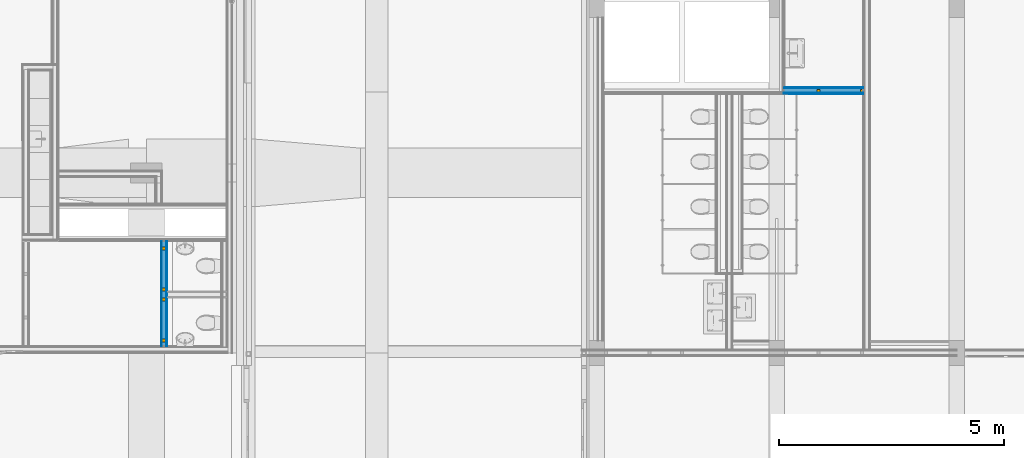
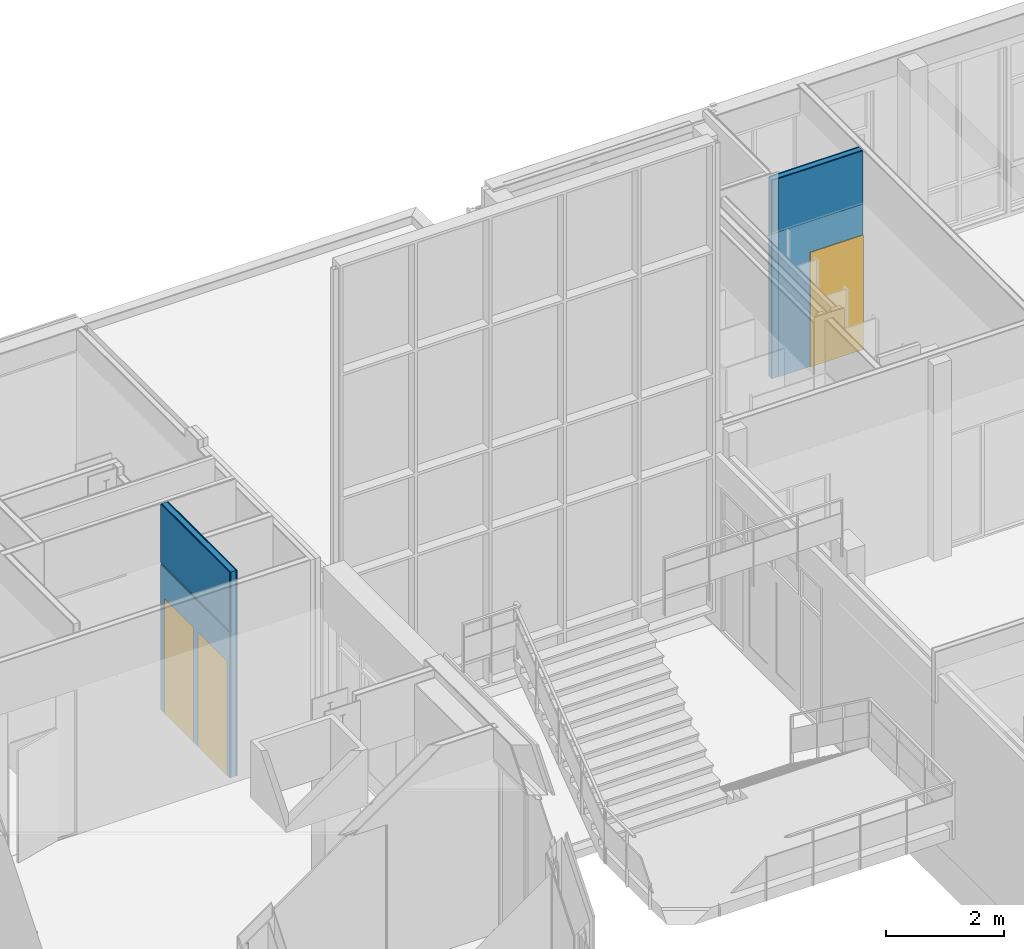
# One storey, part 64 of 94: 10 building element parts, 3 doors, 3 openings, 2 elements without a shape of their own.
"""IFC2X3 building model written with IfcOpenShell, lengths in millimetres."""

from ifc_helpers import new_model, entity, si_unit, converted_unit, derived_unit, money_unit, direction, frame, origin_with_axes, place, context, subcontext, project, spatial, faceted_brep, source, transform, mapped, material, type_object, type_shapes, element, fill, aggregate, save


model = new_model("IFC2X3")

# Units and contexts
model_context = context("Model", 3, precision=0.01, world=origin_with_axes(), true_north=direction((0.0, 1.0)))
body_context = subcontext(model_context, "Body", "Model", "MODEL_VIEW")
ifc_project = project(units=[si_unit("LENGTHUNIT", "METRE", prefix="MILLI"), si_unit("AREAUNIT", "SQUARE_METRE"), si_unit("VOLUMEUNIT", "CUBIC_METRE"), converted_unit("PLANEANGLEUNIT", "DEGREE", entity("IfcPlaneAngleMeasure", 0.0174532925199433), si_unit("PLANEANGLEUNIT", "RADIAN"), dimensions=[0, 0, 0, 0, 0, 0, 0]), money_unit("EUR"), converted_unit("TIMEUNIT", "Year", entity("IfcTimeMeasure", 31557600.0), si_unit("TIMEUNIT", "SECOND"), dimensions=[0, 0, 1, 0, 0, 0, 0]), si_unit("MASSUNIT", "GRAM", prefix="KILO"), si_unit("THERMODYNAMICTEMPERATUREUNIT", "DEGREE_CELSIUS"), si_unit("LUMINOUSINTENSITYUNIT", "LUMEN"), si_unit("ENERGYUNIT", "JOULE", prefix="MEGA"), derived_unit("THERMALCONDUCTANCEUNIT", [(si_unit("POWERUNIT", "WATT"), 1), (si_unit("LENGTHUNIT", "METRE"), -1), (si_unit("THERMODYNAMICTEMPERATUREUNIT", "KELVIN"), -1)]), derived_unit("SPECIFICHEATCAPACITYUNIT", [(si_unit("ENERGYUNIT", "JOULE"), 1), (si_unit("MASSUNIT", "GRAM", prefix="KILO"), -1), (si_unit("THERMODYNAMICTEMPERATUREUNIT", "KELVIN"), -1)]), derived_unit("MASSDENSITYUNIT", [(si_unit("MASSUNIT", "GRAM", prefix="KILO"), 1), (si_unit("VOLUMEUNIT", "CUBIC_METRE"), -1)])], contexts=[model_context])

# Site, building, storey
site_placement = place(None, origin_with_axes())
site = spatial("IfcSite", under=ifc_project, at=site_placement, Name="<site naam>", CompositionType="ELEMENT")
building_placement = place(site_placement, origin_with_axes())
building = spatial("IfcBuilding", under=site, at=building_placement, Name="<Naam gebouw>", CompositionType="ELEMENT")
storey_placement = place(building_placement, frame((0.0, 0.0, 4250.0), z_axis=(0.0, 0.0, 1.0), x_axis=(1.0, 0.0, 0.0)))
storey = spatial("IfcBuildingStorey", under=building, at=storey_placement, Name="01 1e verdieping", CompositionType="ELEMENT", Elevation=4250.0)

# Door
door_style_1 = type_object("IfcDoorStyle", Name="D1 27", ConstructionType="NOTDEFINED", OperationType="SINGLE_SWING_RIGHT", ParameterTakesPrecedence=False, Sizeable=False)
shared_shape_1 = source(origin_with_axes(), body_context, "Body", "Brep", [
    faceted_brep([(-425.0, -40.0, 0.0), (-425.0, -39.99999999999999, 2300.0), (-425.0, -114.0, 2300.0), (-425.0, -114.0, 0.0), (-442.0, -40.0, 2300.0), (-442.0, -40.0, 0.0), (-442.0, 0.0, 2300.0), (-492.0, 0.0, 2300.0), (-492.0, -114.0, 2300.0), (-492.0, -114.0, 0.0), (-492.0, 0.0, 0.0), (-442.0, 0.0, 0.0)], [[[0, 1, 2, 3]], [[4, 1, 0, 5]], [[4, 6, 7, 8, 2, 1]], [[3, 2, 8, 9]], [[5, 0, 3, 9, 10, 11]], [[6, 4, 5, 11]], [[6, 11, 10, 7]], [[10, 9, 8, 7]]]),
    faceted_brep([(442.0, -40.0, 2300.0), (425.0, -39.99999999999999, 2300.0), (425.0, -114.0, 2300.0), (492.0, -114.0, 2300.0), (492.0, 0.0, 2300.0), (442.0, 0.0, 2300.0), (442.0, -40.0, 0.0), (425.0, -40.0, 0.0), (425.0, -114.0, 0.0), (492.0, -114.0, 0.0), (492.0, 0.0, 0.0), (442.0, 0.0, 0.0)], [[[0, 1, 2, 3, 4, 5]], [[1, 0, 6, 7]], [[1, 7, 8, 2]], [[3, 2, 8, 9]], [[4, 3, 9, 10]], [[11, 5, 4, 10]], [[0, 5, 11, 6]], [[6, 11, 10, 9, 8, 7]]]),
    faceted_brep([(-442.0, 0.0, 2317.0), (-442.0, 0.0, 2300.0), (-492.0, 0.0, 2300.0), (-492.0, 0.0, 2367.0), (492.0, 0.0, 2367.0), (492.0, 0.0, 2300.0), (442.0, 0.0, 2300.0), (442.0, 0.0, 2317.0), (-442.0, -40.0, 2317.0), (-442.0, -40.0, 2300.0), (-425.0, -39.99999999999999, 2300.0), (-425.0, -114.0, 2300.0), (-492.0, -114.0, 2300.0), (-492.0, -114.0, 2367.0), (492.0, -114.0, 2367.0), (492.0, -114.0, 2300.0), (442.0, -40.0, 2300.0), (425.0, -114.0, 2300.0), (425.0, -39.99999999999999, 2300.0), (442.0, -40.0, 2317.0)], [[[0, 1, 2, 3, 4, 5, 6, 7]], [[1, 0, 8, 9]], [[9, 10, 11, 12, 2, 1]], [[2, 12, 13, 3]], [[3, 13, 14, 4]], [[4, 14, 15, 5]], [[16, 6, 5, 15, 17, 18]], [[7, 6, 16, 19]], [[0, 7, 19, 8]], [[16, 18, 10, 9, 8, 19]], [[10, 18, 17, 11]], [[17, 15, 14, 13, 12, 11]]]),
    faceted_brep([(442.0000000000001, 0.0, 0.0), (442.0000000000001, -40.0, 0.0), (-442.0, -40.0, 0.0), (-442.0, 0.0, 0.0), (442.0000000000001, 0.0, 2317.0), (442.0000000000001, -40.00000000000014, 2317.0), (-442.0, -40.00000000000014, 2317.0), (-442.0, 0.0, 2317.0)], [[[0, 1, 2, 3]], [[4, 5, 1, 0]], [[1, 5, 6, 2]], [[3, 2, 6, 7]], [[0, 3, 7, 4]], [[7, 6, 5, 4]]]),
])
type_shapes(door_style_1, [shared_shape_1])
wall_2_placement = place(storey_placement, frame((2465.044484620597, 14599.99996934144, 0.0), z_axis=(0.0, 0.0, 1.0), x_axis=(0.0, -1.0, 0.0)))
opening_3_placement = place(wall_2_placement, frame((733.0000000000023, 0.0, 0.0), z_axis=(0.0, 0.0, 1.0), x_axis=(1.0, 0.0, 0.0)))
door_1_placement = place(opening_3_placement, frame((425.0000000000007, 0.0, 0.0), z_axis=(0.0, 0.0, 1.0), x_axis=(-1.0, 0.0, 0.0)))
door_1 = element("IfcDoor", 1, at=door_1_placement, inside=storey, type_object=door_style_1, Name="22_BI-A-04 sp_305", ObjectType="DOOR", OverallHeight=2367.0, OverallWidth=984.0, context=body_context, shape_type="MappedRepresentation", body=[
    mapped(shared_shape_1, transform((425.0000000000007, 149.9999999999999, 0.0))),
])

door_style_2 = type_object("IfcDoorStyle", Name="D1 27", ConstructionType="NOTDEFINED", OperationType="SINGLE_SWING_LEFT", ParameterTakesPrecedence=False, Sizeable=False)
shared_shape_2 = source(origin_with_axes(), body_context, "Body", "Brep", [
    faceted_brep([(425.0, -40.0, 0.0), (425.0, -114.0, 0.0), (425.0, -114.0, 2300.0), (425.0, -39.99999999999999, 2300.0), (442.0, -40.0, 0.0), (442.0, 0.0, 0.0), (492.0, 0.0, 0.0), (492.0, -114.0, 0.0), (492.0, -114.0, 2300.0), (442.0, -40.0, 2300.0), (492.0, 0.0, 2300.0), (442.0, 0.0, 2300.0)], [[[0, 1, 2, 3]], [[4, 5, 6, 7, 1, 0]], [[1, 7, 8, 2]], [[9, 3, 2, 8, 10, 11]], [[9, 4, 0, 3]], [[11, 5, 4, 9]], [[11, 10, 6, 5]], [[6, 10, 8, 7]]]),
    faceted_brep([(-442.0, -40.0, 2300.0), (-442.0, 0.0, 2300.0), (-492.0, 0.0, 2300.0), (-492.0, -114.0, 2300.0), (-425.0, -114.0, 2300.0), (-425.0, -39.99999999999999, 2300.0), (-442.0, -40.0, 0.0), (-442.0, 0.0, 0.0), (-492.0, 0.0, 0.0), (-492.0, -114.0, 0.0), (-425.0, -114.0, 0.0), (-425.0, -40.0, 0.0)], [[[0, 1, 2, 3, 4, 5]], [[0, 6, 7, 1]], [[7, 8, 2, 1]], [[2, 8, 9, 3]], [[3, 9, 10, 4]], [[5, 4, 10, 11]], [[5, 11, 6, 0]], [[6, 11, 10, 9, 8, 7]]]),
    faceted_brep([(442.0, 0.0, 2317.0), (-442.0, 0.0, 2317.0), (-442.0, 0.0, 2300.0), (-492.0, 0.0, 2300.0), (-492.0, 0.0, 2367.0), (492.0, 0.0, 2367.0), (492.0, 0.0, 2300.0), (442.0, 0.0, 2300.0), (442.0, -40.0, 2317.0), (-442.0, -40.0, 2317.0), (-442.0, -40.0, 2300.0), (-425.0, -39.99999999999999, 2300.0), (-425.0, -114.0, 2300.0), (-492.0, -114.0, 2300.0), (-492.0, -114.0, 2367.0), (492.0, -114.0, 2367.0), (492.0, -114.0, 2300.0), (442.0, -40.0, 2300.0), (425.0, -114.0, 2300.0), (425.0, -39.99999999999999, 2300.0)], [[[0, 1, 2, 3, 4, 5, 6, 7]], [[0, 8, 9, 1]], [[1, 9, 10, 2]], [[10, 11, 12, 13, 3, 2]], [[4, 3, 13, 14]], [[5, 4, 14, 15]], [[6, 5, 15, 16]], [[17, 7, 6, 16, 18, 19]], [[7, 17, 8, 0]], [[10, 9, 8, 17, 19, 11]], [[19, 18, 12, 11]], [[12, 18, 16, 15, 14, 13]]]),
    faceted_brep([(-442.0000000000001, 0.0, 0.0), (442.0, 0.0, 0.0), (442.0, -40.0, 0.0), (-442.0000000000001, -40.0, 0.0), (-442.0000000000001, 0.0, 2317.0), (442.0, 0.0, 2317.0), (442.0, -40.00000000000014, 2317.0), (-442.0000000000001, -40.00000000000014, 2317.0)], [[[0, 1, 2, 3]], [[0, 4, 5, 1]], [[1, 5, 6, 2]], [[3, 2, 6, 7]], [[4, 0, 3, 7]], [[5, 4, 7, 6]]]),
])
type_shapes(door_style_2, [shared_shape_2])
opening_2_placement = place(wall_2_placement, frame((1867.000000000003, 0.0, 0.0), z_axis=(0.0, 0.0, 1.0), x_axis=(1.0, 0.0, 0.0)))
door_2_placement = place(opening_2_placement, frame((425.0000000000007, 0.0, 0.0), z_axis=(0.0, 0.0, 1.0), x_axis=(-1.0, 0.0, 0.0)))
door_2 = element("IfcDoor", 2, at=door_2_placement, inside=storey, type_object=door_style_2, Name="22_BI-A-03_305", ObjectType="DOOR", OverallHeight=2367.0, OverallWidth=984.0, context=body_context, shape_type="MappedRepresentation", body=[
    mapped(shared_shape_2, transform((425.0000000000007, 149.9999999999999, 0.0))),
])

door_style_3 = type_object("IfcDoorStyle", Name="D1 27", ConstructionType="NOTDEFINED", OperationType="SINGLE_SWING_LEFT", ParameterTakesPrecedence=False, Sizeable=False)
shared_shape_3 = source(origin_with_axes(), body_context, "Body", "Brep", [
    faceted_brep([(449.9999999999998, -40.0, 0.0), (450.0, -114.0, 0.0), (450.0, -114.0, 2300.0), (450.0, -39.99999999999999, 2300.0), (467.0, -40.0, 0.0), (467.0, 0.0, 0.0), (517.0, 0.0, 0.0), (517.0, -114.0, 0.0), (517.0, -114.0, 2300.0), (467.0, -40.0, 2300.0), (517.0, 0.0, 2300.0), (467.0, 0.0, 2300.0)], [[[0, 1, 2, 3]], [[4, 5, 6, 7, 1, 0]], [[1, 7, 8, 2]], [[9, 3, 2, 8, 10, 11]], [[9, 4, 0, 3]], [[11, 5, 4, 9]], [[11, 10, 6, 5]], [[6, 10, 8, 7]]]),
    faceted_brep([(-467.0, -40.0, 2300.0), (-467.0, 0.0, 2300.0), (-517.0, 0.0, 2300.0), (-517.0, -114.0, 2300.0), (-450.0, -114.0, 2300.0), (-450.0, -39.99999999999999, 2300.0), (-467.0, -40.0, 0.0), (-467.0, 0.0, 0.0), (-517.0, 0.0, 0.0), (-517.0, -114.0, 0.0), (-450.0, -114.0, 0.0), (-450.0, -40.0, 0.0)], [[[0, 1, 2, 3, 4, 5]], [[0, 6, 7, 1]], [[7, 8, 2, 1]], [[2, 8, 9, 3]], [[3, 9, 10, 4]], [[5, 4, 10, 11]], [[5, 11, 6, 0]], [[6, 11, 10, 9, 8, 7]]]),
    faceted_brep([(467.0, 0.0, 2317.0), (-467.0, 0.0, 2317.0), (-467.0, 0.0, 2300.0), (-517.0, 0.0, 2300.0), (-517.0, 0.0, 2367.0), (517.0, 0.0, 2367.0), (517.0, 0.0, 2300.0), (467.0, 0.0, 2300.0), (467.0, -40.0, 2317.0), (-467.0, -40.0, 2317.0), (-467.0, -40.0, 2300.0), (-450.0, -39.99999999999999, 2300.0), (-450.0, -114.0, 2300.0), (-517.0, -114.0, 2300.0), (-517.0, -114.0, 2367.0), (517.0, -114.0, 2367.0), (517.0, -114.0, 2300.0), (467.0, -40.0, 2300.0), (450.0, -114.0, 2300.0), (450.0, -39.99999999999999, 2300.0)], [[[0, 1, 2, 3, 4, 5, 6, 7]], [[0, 8, 9, 1]], [[1, 9, 10, 2]], [[10, 11, 12, 13, 3, 2]], [[4, 3, 13, 14]], [[5, 4, 14, 15]], [[6, 5, 15, 16]], [[17, 7, 6, 16, 18, 19]], [[7, 17, 8, 0]], [[10, 9, 8, 17, 19, 11]], [[19, 18, 12, 11]], [[12, 18, 16, 15, 14, 13]]]),
    faceted_brep([(-467.0000000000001, 0.0, 0.0), (467.0, 0.0, 0.0), (467.0, -40.0, 0.0), (-467.0000000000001, -40.0, 0.0), (-467.0000000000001, 0.0, 2317.0), (467.0, 0.0, 2317.0), (467.0, -40.00000000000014, 2317.0), (-467.0000000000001, -40.00000000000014, 2317.0)], [[[0, 1, 2, 3]], [[0, 4, 5, 1]], [[1, 5, 6, 2]], [[3, 2, 6, 7]], [[4, 0, 3, 7]], [[5, 4, 7, 6]]]),
])
type_shapes(door_style_3, [shared_shape_3])
wall_1_placement = place(storey_placement, frame((17999.93840291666, 17750.00000000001, 0.0), z_axis=(0.0, 0.0, 1.0), x_axis=(-1.0, 0.0, 0.0)))
opening_1_placement = place(wall_1_placement, frame((591.9999999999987, 0.0, 0.0), z_axis=(0.0, 0.0, 1.0), x_axis=(1.0, 0.0, 0.0)))
door_3_placement = place(opening_1_placement, frame((-449.9999999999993, 0.0, 0.0), z_axis=(0.0, 0.0, 1.0), x_axis=(1.0, 0.0, 0.0)))
door_3 = element("IfcDoor", 3, at=door_3_placement, inside=storey, type_object=door_style_3, Name="22_BI-A-04_305", ObjectType="DOOR", OverallHeight=2367.0, OverallWidth=1034.0, context=body_context, shape_type="MappedRepresentation", body=[
    mapped(shared_shape_3, transform((449.9999999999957, 10.00000000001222, 0.0))),
])

# Wall, opening
wall_type = type_object("IfcWallType", Name="MS-01 GF 150 ECO DGS/2.100.2.A 150", PredefinedType="NOTDEFINED")
wall_1 = element("IfcWall", 4, at=wall_1_placement, inside=storey, type_object=wall_type, Name="22_Binnenwand_MS-01")
opening_1 = element("IfcOpeningElement", 5, at=opening_1_placement, cuts=wall_1, Name="22_BI-A-04_305", context=body_context, shape_type="Brep", body=[
    faceted_brep([(-517.000000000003, -151.0000000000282, 2367.0), (-517.000000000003, -151.0000000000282, 0.0), (516.9999999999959, -151.0000000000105, 0.0), (516.9999999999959, -151.0000000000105, 2367.0), (-517.000000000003, 1.000000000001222, 2367.0), (-517.000000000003, 1.000000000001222, 0.0), (516.9999999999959, 1.000000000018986, 0.0), (516.9999999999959, 1.000000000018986, 2367.0)], [[[0, 1, 2, 3]], [[4, 5, 1, 0]], [[5, 6, 2, 1]], [[6, 7, 3, 2]], [[7, 4, 0, 3]], [[6, 5, 4, 7]]]),
])

fill(opening_1, door_3)

# Building element part
ifc_material_1 = material(Name="gipsplaat")
building_element_part_1_placement = place(wall_1_placement, origin_with_axes())
building_element_part_1 = element("IfcBuildingElementPart", 6, at=building_element_part_1_placement, material=ifc_material_1, Name="gipsplaat", context=body_context, shape_type="Brep", body=[
    faceted_brep([(1724.938402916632, -12.49999999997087, 4100.0), (75.00000240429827, -12.49999999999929, 4100.0), (75.00006807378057, -12.49999999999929, 3.000000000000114), (1724.938402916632, -12.49999999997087, 3.000000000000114), (75.00000240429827, 0.0, 4100.0), (1724.938402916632, 0.0, 4100.0), (75.00006807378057, 0.0, 3.000000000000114), (1724.938402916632, 0.0, 3.000000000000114), (1724.938402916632, 0.0, 3000.0), (1724.938402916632, -5.398737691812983, 3000.0), (1724.938402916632, -5.398737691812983, 3040.0), (1724.938402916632, 0.0, 3040.0), (76.26131857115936, 0.0, 3040.0), (76.26131857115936, 0.0, 3000.0), (76.26131857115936, -5.398737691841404, 3000.0), (76.26131857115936, -5.398737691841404, 3040.0)], [[[0, 1, 2, 3]], [[4, 1, 0, 5]], [[1, 4, 6, 2]], [[7, 3, 2, 6]], [[5, 0, 3, 7, 8, 9, 10, 11]], [[4, 5, 11, 12, 13, 8, 7, 6]], [[9, 8, 13, 14]], [[15, 10, 9, 14]], [[15, 12, 11, 10]], [[14, 13, 12, 15]]]),
])

building_element_part_2_placement = place(wall_1_placement, origin_with_axes())
building_element_part_2 = element("IfcBuildingElementPart", 7, at=building_element_part_2_placement, material=ifc_material_1, Name="gipsplaat", context=body_context, shape_type="Brep", body=[
    faceted_brep([(1849.938402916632, -24.99999999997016, 4100.0), (75.00000240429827, -24.99999999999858, 4100.0), (75.00006807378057, -24.99999999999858, 3.000000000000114), (1824.938467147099, -24.99999999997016, 3.000000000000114), (1824.938467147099, -24.99999999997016, 0.0), (1849.938402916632, -24.99999999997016, 0.0), (75.00000240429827, -12.49999999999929, 4100.0), (1849.938402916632, -12.49999999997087, 4100.0), (75.00006807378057, -12.49999999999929, 3.000000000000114), (1824.938467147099, -12.49999999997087, 3.000000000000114), (1824.938467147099, -12.49999999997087, 0.0), (1849.938402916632, -12.49999999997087, 0.0)], [[[0, 1, 2, 3, 4, 5]], [[6, 1, 0, 7]], [[1, 6, 8, 2]], [[9, 3, 2, 8]], [[10, 4, 3, 9]], [[5, 4, 10, 11]], [[7, 0, 5, 11]], [[6, 7, 11, 10, 9, 8]]]),
])

building_element_part_3_placement = place(wall_1_placement, origin_with_axes())
building_element_part_3 = element("IfcBuildingElementPart", 8, at=building_element_part_3_placement, material=ifc_material_1, Name="gipsplaat", context=body_context, shape_type="Brep", body=[
    faceted_brep([(1837.438402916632, -137.4999999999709, 4100.0), (75.00000240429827, -137.4999999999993, 4100.0), (75.00006807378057, -137.4999999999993, 3.000000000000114), (1824.938467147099, -137.4999999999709, 3.000000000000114), (1824.938467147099, -137.4999999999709, 0.0), (1837.438402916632, -137.4999999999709, 0.0), (75.00000240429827, -125.0, 4100.0), (1837.438402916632, -124.9999999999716, 4100.0), (75.00006807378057, -125.0, 3.000000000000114), (1824.938467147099, -124.9999999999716, 3.000000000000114), (1824.938467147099, -124.9999999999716, 0.0), (1837.438402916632, -124.9999999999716, 0.0)], [[[0, 1, 2, 3, 4, 5]], [[6, 1, 0, 7]], [[1, 6, 8, 2]], [[9, 3, 2, 8]], [[10, 4, 3, 9]], [[5, 4, 10, 11]], [[7, 0, 5, 11]], [[6, 7, 11, 10, 9, 8]]]),
])

ifc_material_2 = material(Name="isolatie_steenwol LSW")
building_element_part_4_placement = place(wall_1_placement, origin_with_axes())
building_element_part_4 = element("IfcBuildingElementPart", 9, at=building_element_part_4_placement, material=ifc_material_2, Name="isolatie_steenwol LSW", context=body_context, shape_type="Brep", body=[
    faceted_brep([(1849.938402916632, -124.9999999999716, 4100.0), (75.00000240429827, -125.0, 4100.0), (75.00006807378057, -125.0, 3.000000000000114), (1824.938467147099, -124.9999999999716, 3.000000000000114), (1824.938467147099, -124.9999999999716, 0.0), (1849.938402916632, -124.9999999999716, 0.0), (75.00000240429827, -24.99999999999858, 4100.0), (1849.938402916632, -24.99999999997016, 4100.0), (75.00006807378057, -24.99999999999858, 3.000000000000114), (1824.938467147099, -24.99999999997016, 3.000000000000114), (1824.938467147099, -24.99999999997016, 0.0), (1849.938402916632, -24.99999999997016, 0.0)], [[[0, 1, 2, 3, 4, 5]], [[6, 1, 0, 7]], [[1, 6, 8, 2]], [[9, 3, 2, 8]], [[10, 4, 3, 9]], [[5, 4, 10, 11]], [[7, 0, 5, 11]], [[6, 7, 11, 10, 9, 8]]]),
])

building_element_part_5_placement = place(wall_1_placement, origin_with_axes())
building_element_part_5 = element("IfcBuildingElementPart", 10, at=building_element_part_5_placement, material=ifc_material_1, Name="gipsplaat", context=body_context, shape_type="Brep", body=[
    faceted_brep([(1824.938404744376, -149.9999999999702, 4100.0), (75.00000240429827, -149.9999999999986, 4100.0), (75.00006807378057, -149.9999999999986, 3.000000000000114), (1824.938467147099, -149.9999999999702, 3.000000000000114), (75.00000240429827, -137.4999999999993, 4100.0), (1824.938404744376, -137.4999999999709, 4100.0), (75.00006807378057, -137.4999999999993, 3.000000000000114), (1824.938467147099, -137.4999999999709, 3.000000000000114)], [[[0, 1, 2, 3]], [[4, 1, 0, 5]], [[1, 4, 6, 2]], [[7, 3, 2, 6]], [[5, 0, 3, 7]], [[4, 5, 7, 6]]]),
])

aggregate(wall_1, [building_element_part_1, building_element_part_2, building_element_part_3, building_element_part_4, building_element_part_5])

# Wall, opening
wall_2 = element("IfcWall", 11, at=wall_2_placement, inside=storey, type_object=wall_type, Name="22_Binnenwand_MS-01")
opening_2 = element("IfcOpeningElement", 12, at=opening_2_placement, cuts=wall_2, Name="22_BI-A-03_305", context=body_context, shape_type="Brep", body=[
    faceted_brep([(492.0000000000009, 1.000000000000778, 2367.0), (492.0000000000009, 1.000000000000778, 0.0), (-491.9999999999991, 1.000000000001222, 0.0), (-491.9999999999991, 1.000000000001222, 2367.0), (492.0000000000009, -151.0000000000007, 2367.0), (492.0000000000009, -151.0000000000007, 0.0), (-491.9999999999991, -151.0000000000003, 0.0), (-491.9999999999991, -151.0000000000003, 2367.0)], [[[0, 1, 2, 3]], [[4, 5, 1, 0]], [[5, 6, 2, 1]], [[6, 7, 3, 2]], [[7, 4, 0, 3]], [[6, 5, 4, 7]]]),
])

fill(opening_2, door_2)

# Opening
opening_3 = element("IfcOpeningElement", 13, at=opening_3_placement, cuts=wall_2, Name="22_BI-A-04 sp_305", context=body_context, shape_type="Brep", body=[
    faceted_brep([(492.0000000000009, 1.000000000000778, 2367.0), (492.0000000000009, 1.000000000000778, 0.0), (-491.9999999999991, 1.000000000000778, 0.0), (-491.9999999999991, 1.000000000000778, 2367.0), (492.0000000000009, -151.0000000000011, 2367.0), (492.0000000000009, -151.0000000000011, 0.0), (-491.9999999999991, -151.0000000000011, 0.0), (-491.9999999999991, -151.0000000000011, 2367.0)], [[[0, 1, 2, 3]], [[4, 5, 1, 0]], [[5, 6, 2, 1]], [[6, 7, 3, 2]], [[7, 4, 0, 3]], [[6, 5, 4, 7]]]),
])

fill(opening_3, door_1)

# Building element part
building_element_part_6_placement = place(wall_2_placement, origin_with_axes())
building_element_part_6 = element("IfcBuildingElementPart", 14, at=building_element_part_6_placement, material=ifc_material_1, Name="gipsplaat", context=body_context, shape_type="Brep", body=[
    faceted_brep([(112.5000000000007, -12.50000000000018, 19.99999999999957), (112.5000000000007, 0.0, 19.99999999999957), (112.5000000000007, 0.0, 0.0), (112.5000000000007, -12.50000000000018, 0.0), (2450.000036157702, 0.0, 19.99999999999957), (2450.000036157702, -12.49999999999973, 19.99999999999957), (2449.999969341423, 0.0, 0.0), (2449.999969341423, -12.49999999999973, 0.0)], [[[0, 1, 2, 3]], [[4, 1, 0, 5]], [[1, 4, 6, 2]], [[6, 7, 3, 2]], [[5, 0, 3, 7]], [[4, 5, 7, 6]]]),
    faceted_brep([(2450.000036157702, 0.0, 22.99999999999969), (112.5000000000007, 0.0, 22.99999999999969), (112.5000000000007, 0.0, 4250.0), (2449.999969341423, 0.0, 4250.0), (112.5000000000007, -12.50000000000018, 22.99999999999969), (2450.000036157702, -12.49999999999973, 22.99999999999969), (112.5000000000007, -12.49999999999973, 4250.0), (2449.999969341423, -12.49999999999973, 4250.0)], [[[0, 1, 2, 3]], [[4, 1, 0, 5]], [[1, 4, 6, 2]], [[7, 3, 2, 6]], [[5, 0, 3, 7]], [[4, 5, 7, 6]]]),
])

building_element_part_7_placement = place(wall_2_placement, origin_with_axes())
building_element_part_7 = element("IfcBuildingElementPart", 15, at=building_element_part_7_placement, material=ifc_material_1, Name="gipsplaat", context=body_context, shape_type="Brep", body=[
    faceted_brep([(112.5000000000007, -24.99999999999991, 19.99999999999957), (112.5000000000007, -12.50000000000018, 19.99999999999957), (112.5000000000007, -12.50000000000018, 0.0), (112.5000000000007, -24.99999999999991, 0.0), (2450.000036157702, -12.49999999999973, 19.99999999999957), (2450.000036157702, -24.99999999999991, 19.99999999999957), (2449.999969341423, -12.49999999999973, 0.0), (2449.999969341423, -24.99999999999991, 0.0)], [[[0, 1, 2, 3]], [[4, 1, 0, 5]], [[1, 4, 6, 2]], [[6, 7, 3, 2]], [[5, 0, 3, 7]], [[4, 5, 7, 6]]]),
    faceted_brep([(2450.000036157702, -12.49999999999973, 22.99999999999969), (112.5000000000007, -12.50000000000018, 22.99999999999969), (112.5000000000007, -12.49999999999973, 4250.0), (2449.999969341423, -12.49999999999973, 4250.0), (112.5000000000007, -24.99999999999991, 22.99999999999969), (2450.000036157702, -24.99999999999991, 22.99999999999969), (112.5000000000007, -24.99999999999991, 4250.0), (2449.999969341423, -24.99999999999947, 4250.0)], [[[0, 1, 2, 3]], [[4, 1, 0, 5]], [[1, 4, 6, 2]], [[7, 3, 2, 6]], [[5, 0, 3, 7]], [[4, 5, 7, 6]]]),
])

building_element_part_8_placement = place(wall_2_placement, origin_with_axes())
building_element_part_8 = element("IfcBuildingElementPart", 16, at=building_element_part_8_placement, material=ifc_material_2, Name="isolatie_steenwol LSW", context=body_context, shape_type="Brep", body=[
    faceted_brep([(2450.000036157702, -24.99999999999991, 22.99999999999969), (112.5000000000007, -24.99999999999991, 22.99999999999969), (112.5000000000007, -24.99999999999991, 4250.0), (2449.999969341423, -24.99999999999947, 4250.0), (112.5000000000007, -29.9999999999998, 22.99999999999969), (2450.000036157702, -29.99999999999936, 22.99999999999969), (112.5000000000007, -29.9999999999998, 19.99999999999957), (112.5000000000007, -24.99999999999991, 19.99999999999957), (112.5000000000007, -24.99999999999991, 0.0), (112.5000000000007, -29.9999999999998, 0.0), (112.5000000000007, -29.9999999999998, 3.000000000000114), (112.5000000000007, -125.0, 3.000000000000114), (112.5000000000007, -124.9999999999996, 4250.0), (2449.999969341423, -124.9999999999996, 4250.0), (2449.999969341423, -125.0, 3.000000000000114), (2449.999969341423, -29.99999999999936, 3.000000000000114), (2449.999969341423, -29.99999999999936, 0.0), (2449.999969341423, -24.99999999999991, 0.0), (2450.000036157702, -24.99999999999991, 19.99999999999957), (2450.000036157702, -29.99999999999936, 19.99999999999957)], [[[0, 1, 2, 3]], [[4, 1, 0, 5]], [[6, 7, 8, 9, 10, 11, 12, 2, 1, 4]], [[13, 3, 2, 12]], [[5, 0, 3, 13, 14, 15, 16, 17, 18, 19]], [[6, 4, 5, 19]], [[18, 7, 6, 19]], [[7, 18, 17, 8]], [[16, 9, 8, 17]], [[10, 9, 16, 15]], [[11, 10, 15, 14]], [[11, 14, 13, 12]]]),
])

building_element_part_9_placement = place(wall_2_placement, origin_with_axes())
building_element_part_9 = element("IfcBuildingElementPart", 17, at=building_element_part_9_placement, material=ifc_material_1, Name="gipsplaat", context=body_context, shape_type="Brep", body=[
    faceted_brep([(2449.999969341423, -125.0, 3.000000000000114), (112.5000000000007, -125.0, 3.000000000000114), (112.5000000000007, -124.9999999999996, 4250.0), (2449.999969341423, -124.9999999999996, 4250.0), (112.5000000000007, -137.5000000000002, 3.000000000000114), (2449.999969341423, -137.4999999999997, 3.000000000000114), (112.5000000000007, -137.4999999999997, 4250.0), (2449.999969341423, -137.4999999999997, 4250.0)], [[[0, 1, 2, 3]], [[4, 1, 0, 5]], [[1, 4, 6, 2]], [[7, 3, 2, 6]], [[5, 0, 3, 7]], [[4, 5, 7, 6]]]),
])

building_element_part_10_placement = place(wall_2_placement, origin_with_axes())
building_element_part_10 = element("IfcBuildingElementPart", 18, at=building_element_part_10_placement, material=ifc_material_1, Name="gipsplaat", context=body_context, shape_type="Brep", body=[
    faceted_brep([(112.5000000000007, -149.9999999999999, 3000.0), (112.5000000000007, -137.4999999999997, 3000.0), (112.5000000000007, -137.5000000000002, 3.000000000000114), (112.5000000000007, -149.9999999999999, 3.000000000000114), (2449.999969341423, -137.4999999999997, 3000.0), (2449.999969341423, -149.9999999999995, 3000.0), (2449.999969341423, -137.4999999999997, 3.000000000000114), (2449.999969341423, -149.9999999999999, 3.000000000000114)], [[[0, 1, 2, 3]], [[4, 1, 0, 5]], [[1, 4, 6, 2]], [[3, 2, 6, 7]], [[5, 0, 3, 7]], [[4, 5, 7, 6]]]),
    faceted_brep([(2449.999969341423, -137.4999999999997, 3040.0), (112.5000000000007, -137.4999999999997, 3040.0), (112.5000000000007, -137.4999999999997, 4250.0), (2449.999969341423, -137.4999999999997, 4250.0), (112.5000000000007, -149.9999999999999, 3040.0), (2449.999969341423, -149.9999999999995, 3040.0), (112.5000000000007, -149.9999999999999, 4250.0), (2449.999969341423, -149.9999999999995, 4250.0)], [[[0, 1, 2, 3]], [[4, 1, 0, 5]], [[1, 4, 6, 2]], [[7, 3, 2, 6]], [[5, 0, 3, 7]], [[4, 5, 7, 6]]]),
])

aggregate(wall_2, [building_element_part_6, building_element_part_7, building_element_part_8, building_element_part_9, building_element_part_10])

save(model, "model.ifc")
